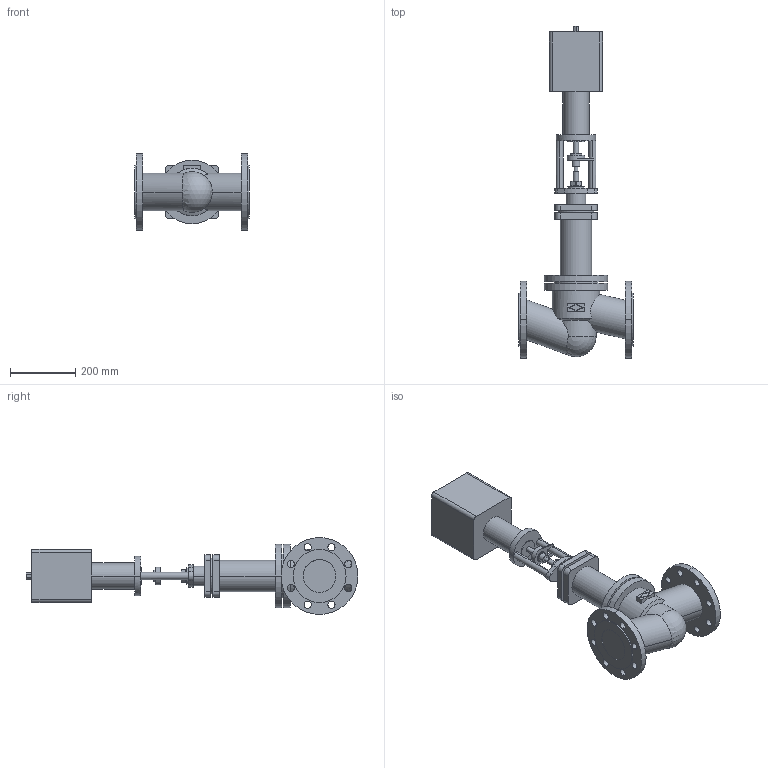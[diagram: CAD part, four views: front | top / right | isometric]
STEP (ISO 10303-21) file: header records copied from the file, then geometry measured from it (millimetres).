
FILE_DESCRIPTION( ( '' ), '1' );
FILE_NAME( 'F:/DE-SHS/TB/OR/04-Sonstiges/daten/files_3d/441-FR2.2/441-PN25-FR2_2/c000004562.stp', '2014-11-06T11:29:08', ( '' ), ( '' ), ' ', ' ', ' ' );
FILE_SCHEMA( ( 'CONFIG_CONTROL_DESIGN' ) );
Length unit declared in the file: millimetre
Products named in the file (2): 1; 2
Bounding box: 350 x 1014.7 x 235 mm (x, y, z)
Volume: 15669393.9 mm3; surface area: 821584.6 mm2
Topology: 2 solids, 2 shells, 206 faces, 510 edges, 338 vertices
Faces by surface type: cylinder 114, plane 89, cone 2, sphere 1
Entity records: 6861 total; most frequent: CARTESIAN_POINT 1594, DIRECTION 1151, ORIENTED_EDGE 1016, EDGE_CURVE 508, AXIS2_PLACEMENT_3D 449, VERTEX_POINT 338, EDGE_LOOP 270, LINE 253
